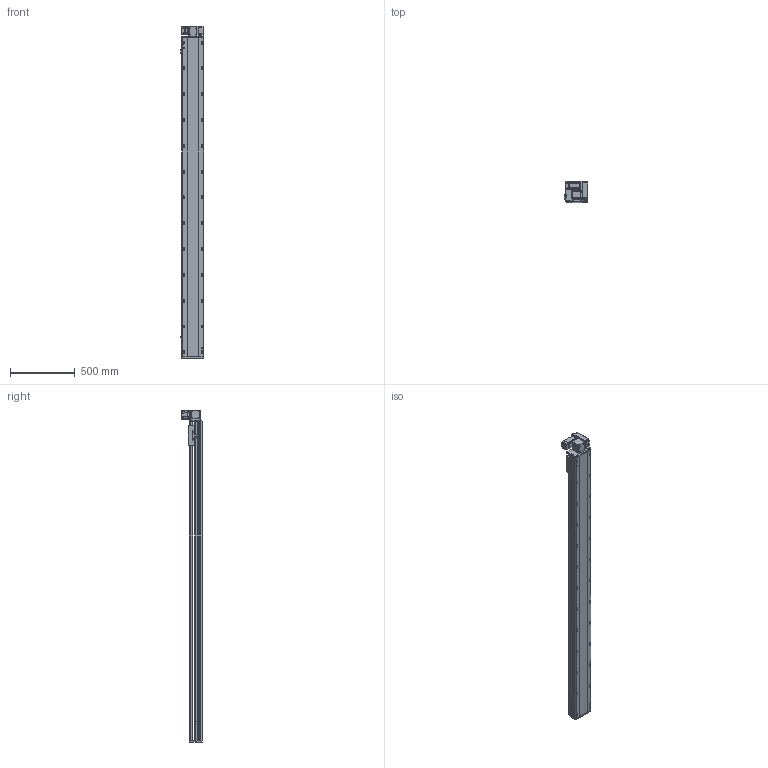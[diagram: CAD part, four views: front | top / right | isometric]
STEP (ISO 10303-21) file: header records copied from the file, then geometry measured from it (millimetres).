
FILE_DESCRIPTION (( 'STEP AP214' ), '1' );
FILE_NAME ('RTB17S-XX-2200-RW-M40-C4.STEP', '2025-12-11T09:10:17', ( '' ), ( '' ), 'SwSTEP 2.0', 'SolidWorks 2018', '' );
FILE_SCHEMA (( 'AUTOMOTIVE_DESIGN' ));
Length unit declared in the file: millimetre
Products named in the file (14): RMP17S-L-014-T20--々湍釱^RTB17S-RW-々湍釱蚾饜-400W_RTB17S-XX-XX-RW-M40-C4; RTB14-L-008-M20--萇儂啣^RTB17S-RW-々湍釱蚾饜-400W_RTB17S-XX-XX-RW-M40-C4; RTB14-L-018P^RTB17S-RW-々湍釱蚾饜-400W_RTB17S-XX-XX-RW-M40-C4; RTB17S-L-004佪裝蹟譫蟀諉釱^RTB17S-XX-XX-RW-M40-C4; RTB17-R-011菁釱^RTB17S-XX-XX-RW-M40-C4; RTH13-BL-012覜茼え俋离^RTB17S-XX-XX-RW-M40-C4; OMRON EE-SX672 传感器^RTB17S-XX-XX-RW-M40-C4; RTB17S-L-001耜醱啣^RTB17S-XX-XX-RW-M40-C4; RTB14-L-005P--轴承塑胶压盖^RTB17S-RW-皮带座装配-400W_RTB17S-XX-XX-RW-M40-C4; RTB17S-L-007奻裔^RTB17S-XX-XX-RW-M40-C4; RTB17S-RW-々湍釱蚾饜-400W^RTB17S-XX-XX-RW-M40-C4; 400W侜督萇儂^RTB17S-XX-XX-RW-M40-C4; RTB14-L-017P^RTB17S-RW-々湍釱蚾饜-400W_RTB17S-XX-XX-RW-M40-C4; RTB17S-XX-2200-RW-M40-C4
Assembly tree (16 placements, depth 3):
  RTB17S-XX-2200-RW-M40-C4
    RTB17-R-011菁釱^RTB17S-XX-XX-RW-M40-C4
    RTB17S-L-007奻裔^RTB17S-XX-XX-RW-M40-C4
    OMRON EE-SX672 传感器^RTB17S-XX-XX-RW-M40-C4  x3
    RTB17S-L-001耜醱啣^RTB17S-XX-XX-RW-M40-C4
    400W侜督萇儂^RTB17S-XX-XX-RW-M40-C4
    RTB17S-L-004佪裝蹟譫蟀諉釱^RTB17S-XX-XX-RW-M40-C4
    RTH13-BL-012覜茼え俋离^RTB17S-XX-XX-RW-M40-C4
    RTB17S-RW-々湍釱蚾饜-400W^RTB17S-XX-XX-RW-M40-C4
      RMP17S-L-014-T20--々湍釱^RTB17S-RW-々湍釱蚾饜-400W_RTB17S-XX-XX-RW-M40-C4
      RTB14-L-005P--轴承塑胶压盖^RTB17S-RW-皮带座装配-400W_RTB17S-XX-XX-RW-M40-C4
      RTB14-L-008-M20--萇儂啣^RTB17S-RW-々湍釱蚾饜-400W_RTB17S-XX-XX-RW-M40-C4
      RTB14-L-017P^RTB17S-RW-々湍釱蚾饜-400W_RTB17S-XX-XX-RW-M40-C4  x2
      RTB14-L-018P^RTB17S-RW-々湍釱蚾饜-400W_RTB17S-XX-XX-RW-M40-C4
Bounding box: 183.5 x 160.5 x 2572.5 mm (x, y, z)
Volume: 22162872.7 mm3; surface area: 2564315.2 mm2
Topology: 15 solids, 15 shells, 2301 faces, 6411 edges, 4185 vertices
Faces by surface type: plane 1080, cylinder 773, bspline 301, cone 139, torus 8
Entity records: 67241 total; most frequent: CARTESIAN_POINT 19016, ORIENTED_EDGE 9666, DIRECTION 8936, EDGE_CURVE 4833, VERTEX_POINT 3173, AXIS2_PLACEMENT_3D 3103, VECTOR 2730, LINE 2730
